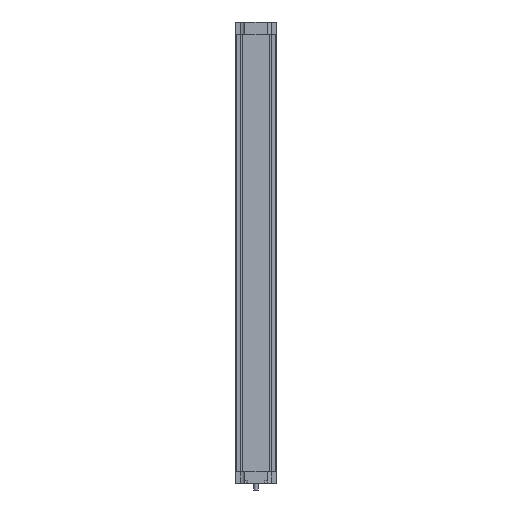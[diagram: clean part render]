
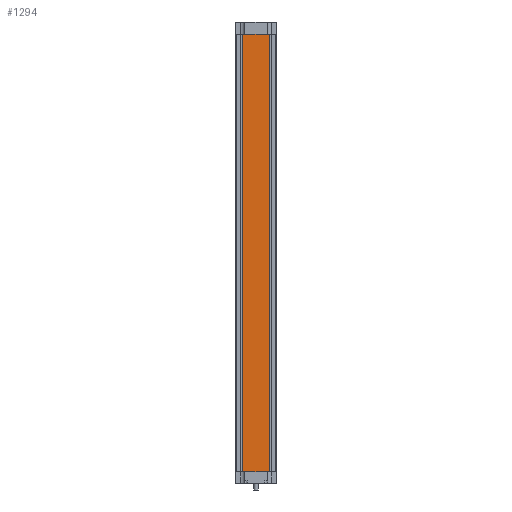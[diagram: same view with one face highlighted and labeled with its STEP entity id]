
A CAD part, front view. The second image highlights one B-rep face of the part: STEP entity #1294.
In plain terms, the highlighted planar face has unit normal (0, -1, 0).
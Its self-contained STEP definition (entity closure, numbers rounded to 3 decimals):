
#544 = ORIENTED_EDGE ( 'NONE', *, *, #1365, .F. ) ;
#615 = EDGE_CURVE ( 'NONE', #1364, #3445, #2296, .T. ) ;
#756 = EDGE_CURVE ( 'NONE', #3445, #3456, #2493, .T. ) ;
#1016 = EDGE_CURVE ( 'NONE', #1320, #3456, #4595, .T. ) ;
#1294 = ADVANCED_FACE ( 'NONE', ( #5095 ), #5112, .F. ) ;
#1297 = EDGE_LOOP ( 'NONE', ( #3779, #3531, #544, #3536 ) ) ;
#1320 = VERTEX_POINT ( 'NONE', #5131 ) ;
#1364 = VERTEX_POINT ( 'NONE', #5205 ) ;
#1365 = EDGE_CURVE ( 'NONE', #1364, #1320, #5187, .T. ) ;
#2296 = LINE ( 'NONE', #2303, #2318 ) ;
#2303 = CARTESIAN_POINT ( 'NONE',  ( -65., -48.75, 2160. ) ) ;
#2317 = DIRECTION ( 'NONE',  ( 0., 0., -1. ) ) ;
#2318 = VECTOR ( 'NONE', #2317, 1000. ) ;
#2492 = CARTESIAN_POINT ( 'NONE',  ( -65., -48.75, 0. ) ) ;
#2493 = LINE ( 'NONE', #2492, #2544 ) ;
#2543 = DIRECTION ( 'NONE',  ( 1., 0., 0. ) ) ;
#2544 = VECTOR ( 'NONE', #2543, 1000. ) ;
#3445 = VERTEX_POINT ( 'NONE', #6073 ) ;
#3456 = VERTEX_POINT ( 'NONE', #6119 ) ;
#3531 = ORIENTED_EDGE ( 'NONE', *, *, #1016, .F. ) ;
#3536 = ORIENTED_EDGE ( 'NONE', *, *, #615, .T. ) ;
#3779 = ORIENTED_EDGE ( 'NONE', *, *, #756, .T. ) ;
#4592 = DIRECTION ( 'NONE',  ( 0., 0., -1. ) ) ;
#4593 = VECTOR ( 'NONE', #4592, 1000. ) ;
#4594 = CARTESIAN_POINT ( 'NONE',  ( 65., -48.75, 2160. ) ) ;
#4595 = LINE ( 'NONE', #4594, #4593 ) ;
#5091 = DIRECTION ( 'NONE',  ( -1., 0., 0. ) ) ;
#5092 = DIRECTION ( 'NONE',  ( 0., 1., 0. ) ) ;
#5095 = FACE_OUTER_BOUND ( 'NONE', #1297, .T. ) ;
#5100 = CARTESIAN_POINT ( 'NONE',  ( -65., -48.75, 2160. ) ) ;
#5101 = AXIS2_PLACEMENT_3D ( 'NONE', #5100, #5092, #5091 ) ;
#5112 = PLANE ( 'NONE',  #5101 ) ;
#5131 = CARTESIAN_POINT ( 'NONE',  ( 65., -48.75, 2160. ) ) ;
#5184 = DIRECTION ( 'NONE',  ( 1., 0., 0. ) ) ;
#5185 = VECTOR ( 'NONE', #5184, 1000. ) ;
#5186 = CARTESIAN_POINT ( 'NONE',  ( -65., -48.75, 2160. ) ) ;
#5187 = LINE ( 'NONE', #5186, #5185 ) ;
#5205 = CARTESIAN_POINT ( 'NONE',  ( -65., -48.75, 2160. ) ) ;
#6073 = CARTESIAN_POINT ( 'NONE',  ( -65., -48.75, 0. ) ) ;
#6119 = CARTESIAN_POINT ( 'NONE',  ( 65., -48.75, 0. ) ) ;
